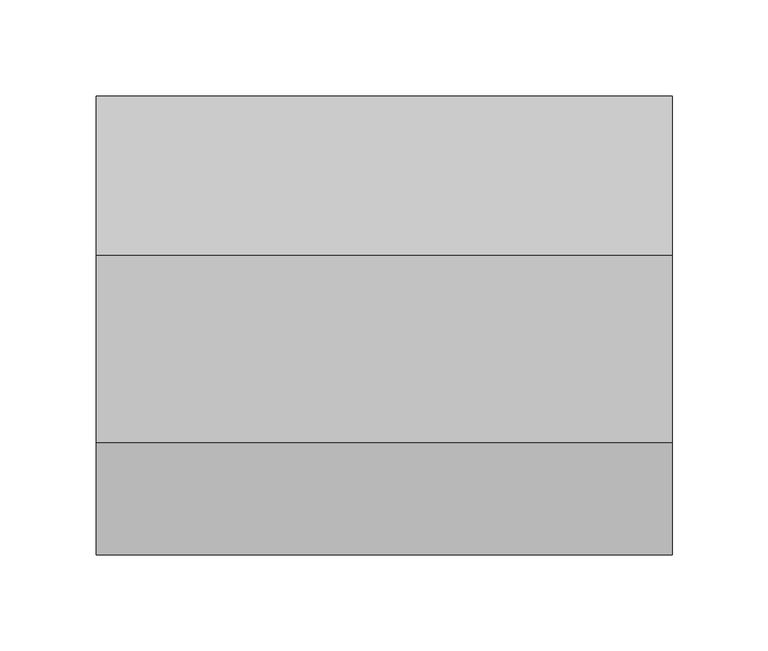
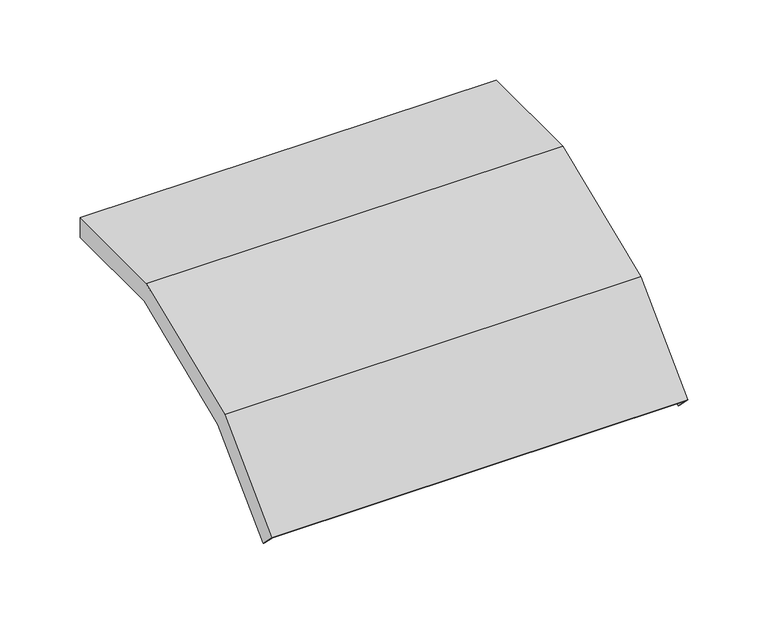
"""IFC4 building model written with IfcOpenShell, lengths in millimetres: proxy geometry, Cable_Tray_Cover_TCXERC45_Basortray : Basortray TCXERC45-300x100-GS."""

from ifc_helpers import new_model, si_unit, origin, place, context, project, spatial, faceted_brep, source, transform, mapped, element, save


def generic_models_243004cf(model_context):
    return source(origin(), model_context, "Body", "Brep", [
        faceted_brep([(-150.0, 0.0, 1.0), (150.0, 0.0, 1.0), (150.0, 0.0, -14.0), (149.0, 0.0, -14.0), (149.0, 0.0, 0.0), (-149.0, 0.0, 0.0), (-149.0, 0.0, -14.0), (-150.0, 0.0, -14.0), (-150.0, -239.1764587, -98.070133), (-150.0, -228.5698569, -108.6767347), (-149.0, -228.5698569, -108.6767347), (-149.0, -238.4693519, -98.7772398), (149.0, -238.4693519, -98.7772398), (149.0, -228.5698569, -108.6767347), (150.0, -228.5698569, -108.6767347), (150.0, -239.1764587, -98.070133), (-150.0, -82.8749222, 1.0), (150.0, -82.8749222, 1.0), (150.0, -180.5750391, -39.4687135), (150.0, -172.0782217, -52.1850994), (150.0, -79.8912367, -14.0), (149.0, -79.8912367, -14.0), (149.0, -172.0782217, -52.1850994), (149.0, -180.0085846, -40.3164725), (149.0, -82.6760099, 0.0), (-149.0, -82.6760099, 0.0), (-149.0, -180.0085846, -40.3164725), (-149.0, -172.0782217, -52.1850994), (-149.0, -79.8912367, -14.0), (-150.0, -79.8912367, -14.0), (-150.0, -172.0782217, -52.1850994), (-150.0, -180.5750391, -39.4687135)], [[[0, 1, 2, 3, 4, 5, 6, 7]], [[8, 9, 10, 11, 12, 13, 14, 15]], [[1, 0, 16, 17]], [[2, 1, 17, 18, 15, 14, 19, 20]], [[3, 2, 20, 21]], [[4, 3, 21, 22, 13, 12, 23, 24]], [[5, 4, 24, 25]], [[6, 5, 25, 26, 11, 10, 27, 28]], [[7, 6, 28, 29]], [[0, 7, 29, 30, 9, 8, 31, 16]], [[17, 16, 31, 18]], [[21, 20, 19, 22]], [[25, 24, 23, 26]], [[29, 28, 27, 30]], [[18, 31, 8, 15]], [[22, 19, 14, 13]], [[26, 23, 12, 11]], [[30, 27, 10, 9]]]),
    ])


if __name__ == "__main__":
    model = new_model("IFC4")
    model_context = context("Model", 3, world=origin())
    ifc_project = project(units=[si_unit("LENGTHUNIT", "METRE", prefix="MILLI")], contexts=[model_context])
    site = spatial("IfcSite", under=ifc_project)
    building = spatial("IfcBuilding", under=site)
    placement = place(None, origin())
    generic_models_shape = generic_models_243004cf(model_context)
    element("IfcBuildingElementProxy", 1, Name="Cable_Tray_Cover_TCXERC45_Basortray : Basortray TCXERC45-300x100-GS", ObjectType="Cable_Tray_Cover_TCXERC45_Basortray : Basortray TCXERC45-300x100-GS", at=placement, inside=building, context=model_context, shape_type="MappedRepresentation", body=[
        mapped(generic_models_shape, transform((0.0, 0.0, 0.0), x_axis=(1.0, 0.0, 0.0), y_axis=(0.0, 1.0, 0.0), z_axis=(0.0, 0.0, 1.0))),
    ])
    save(model, "model.ifc")
